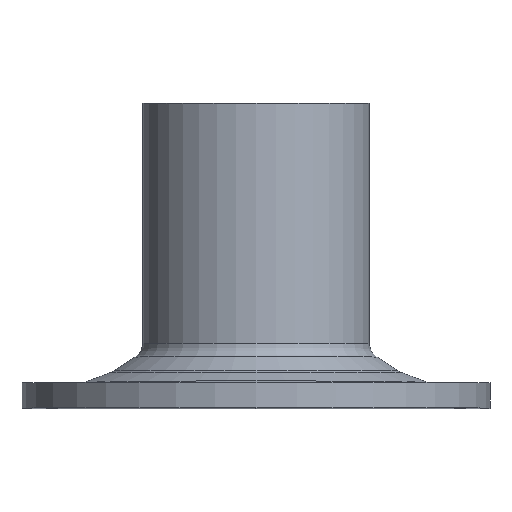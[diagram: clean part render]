
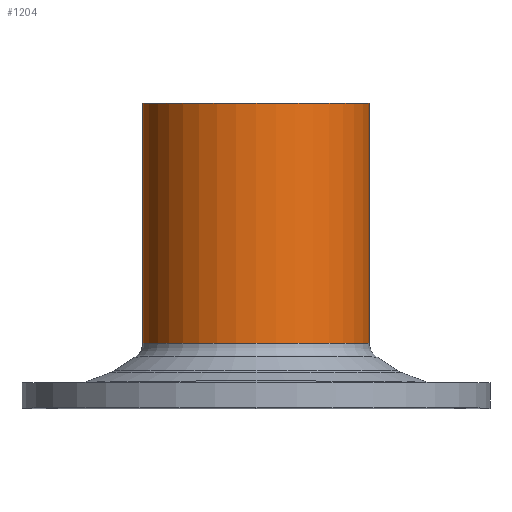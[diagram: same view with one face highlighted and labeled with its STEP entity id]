
A CAD part, top view. The second image highlights one B-rep face of the part: STEP entity #1204.
In plain terms, the highlighted cylindrical face has radius 3.996 mm (diameter 7.993 mm), a partial arc.
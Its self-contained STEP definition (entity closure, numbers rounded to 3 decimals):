
#9 = ORIENTED_EDGE ( 'NONE', *, *, #305, .T. ) ;
#251 = VERTEX_POINT ( 'NONE', #1108 ) ;
#305 = EDGE_CURVE ( 'NONE', #251, #2060, #580, .T. ) ;
#337 = AXIS2_PLACEMENT_3D ( 'NONE', #1545, #2368, #1952 ) ;
#372 = DIRECTION ( 'NONE',  ( 0., -1., 0. ) ) ;
#393 = DIRECTION ( 'NONE',  ( 0., -1., 0. ) ) ;
#580 = CIRCLE ( 'NONE', #884, 3.996 ) ;
#584 = EDGE_CURVE ( 'NONE', #2603, #2381, #963, .T. ) ;
#610 = LINE ( 'NONE', #2231, #2581 ) ;
#615 = DIRECTION ( 'NONE',  ( 0., -1., 0. ) ) ;
#776 = CARTESIAN_POINT ( 'NONE',  ( 0., -8.618, 3.977 ) ) ;
#786 = CARTESIAN_POINT ( 'NONE',  ( -3.996, -0.167, 3.977 ) ) ;
#884 = AXIS2_PLACEMENT_3D ( 'NONE', #991, #393, #2046 ) ;
#963 = CIRCLE ( 'NONE', #2328, 3.996 ) ;
#991 = CARTESIAN_POINT ( 'NONE',  ( 0., -0.167, 3.977 ) ) ;
#1108 = CARTESIAN_POINT ( 'NONE',  ( 3.996, -0.167, 3.977 ) ) ;
#1204 = ADVANCED_FACE ( 'NONE', ( #1845 ), #2586, .T. ) ;
#1277 = ORIENTED_EDGE ( 'NONE', *, *, #1567, .F. ) ;
#1408 = ORIENTED_EDGE ( 'NONE', *, *, #584, .F. ) ;
#1440 = CARTESIAN_POINT ( 'NONE',  ( 3.996, -8.618, 3.977 ) ) ;
#1545 = CARTESIAN_POINT ( 'NONE',  ( 0., -0.167, 3.977 ) ) ;
#1567 = EDGE_CURVE ( 'NONE', #251, #2603, #610, .T. ) ;
#1581 = DIRECTION ( 'NONE',  ( 0., -1., 0. ) ) ;
#1772 = EDGE_LOOP ( 'NONE', ( #1277, #9, #2640, #1408 ) ) ;
#1804 = LINE ( 'NONE', #786, #2039 ) ;
#1842 = CARTESIAN_POINT ( 'NONE',  ( -3.996, -0.167, 3.977 ) ) ;
#1845 = FACE_OUTER_BOUND ( 'NONE', #1772, .T. ) ;
#1923 = EDGE_CURVE ( 'NONE', #2060, #2381, #1804, .T. ) ;
#1952 = DIRECTION ( 'NONE',  ( 0., 0., -1. ) ) ;
#2039 = VECTOR ( 'NONE', #1581, 1000. ) ;
#2046 = DIRECTION ( 'NONE',  ( 0., 0., -1. ) ) ;
#2060 = VERTEX_POINT ( 'NONE', #1842 ) ;
#2231 = CARTESIAN_POINT ( 'NONE',  ( 3.996, -0.167, 3.977 ) ) ;
#2328 = AXIS2_PLACEMENT_3D ( 'NONE', #776, #372, #2398 ) ;
#2368 = DIRECTION ( 'NONE',  ( 0., -1., 0. ) ) ;
#2381 = VERTEX_POINT ( 'NONE', #2482 ) ;
#2398 = DIRECTION ( 'NONE',  ( 0., 0., -1. ) ) ;
#2482 = CARTESIAN_POINT ( 'NONE',  ( -3.996, -8.618, 3.977 ) ) ;
#2581 = VECTOR ( 'NONE', #615, 1000. ) ;
#2586 = CYLINDRICAL_SURFACE ( 'NONE', #337, 3.996 ) ;
#2603 = VERTEX_POINT ( 'NONE', #1440 ) ;
#2640 = ORIENTED_EDGE ( 'NONE', *, *, #1923, .T. ) ;
